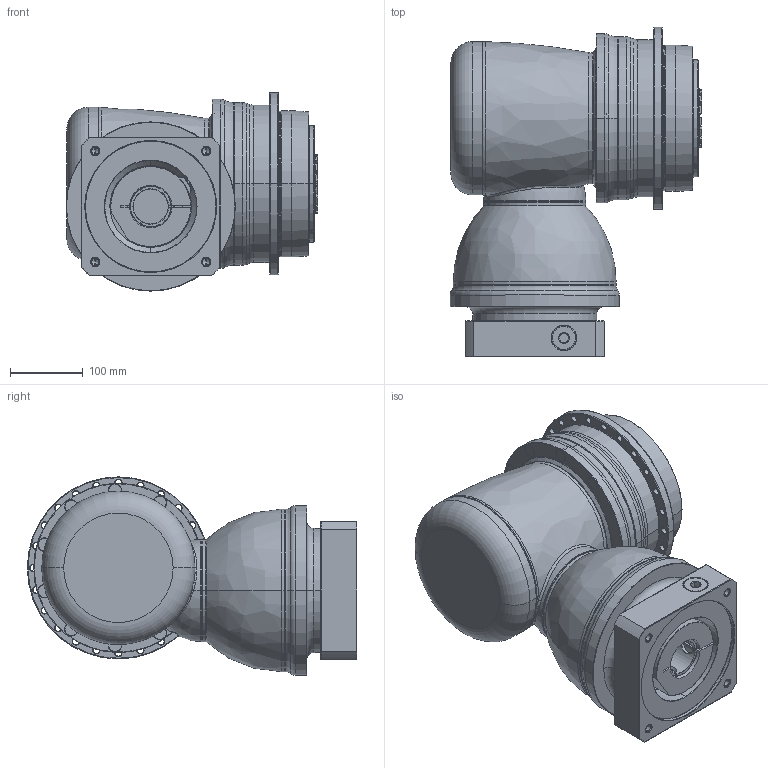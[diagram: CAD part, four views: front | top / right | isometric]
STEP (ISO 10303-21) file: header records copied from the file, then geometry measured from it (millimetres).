
FILE_DESCRIPTION((''),'2;1');
FILE_NAME('APCK200_2ST_48-P0409B10201_ASM','2018-05-09T',('d01226'),(''),'PRO/ENGINEER BY PARAMETRIC TECHNOLOGY CORPORATION, 2008410','PRO/ENGINEER BY PARAMETRIC TECHNOLOGY CORPORATION, 2008410','');
FILE_SCHEMA(('CONFIG_CONTROL_DESIGN'));
Length unit declared in the file: millimetre
Products named in the file (13): P1008600002; P1802610011; P0278601003; P0359660103; P1211600001; P1315600001; P1007601001; P1318610401; P0409B10201; P0503B00016; P0912654001; 21711426021; APCK200_2ST_48-P0409B10201_ASM
Assembly tree (12 placements, depth 2):
  APCK200_2ST_48-P0409B10201_ASM
    P1008600002
    P1802610011
    P0278601003
    P0359660103
    P1211600001
    P1315600001
    P1007601001
    P1318610401
    P0409B10201
    P0503B00016
    P0912654001
    21711426021
Bounding box: 345.1 x 451.25 x 271.75 mm (x, y, z)
Volume: 18664506.8 mm3; surface area: 1229791.4 mm2
Topology: 13 solids, 23 shells, 799 faces, 1877 edges, 1150 vertices
Faces by surface type: cylinder 266, cone 232, plane 152, torus 114, bspline 33, sphere 2
Entity records: 30238 total; most frequent: CARTESIAN_POINT 11280, DIRECTION 4283, ORIENTED_EDGE 3684, AXIS2_PLACEMENT_3D 1875, EDGE_CURVE 1863, VERTEX_POINT 1150, CIRCLE 1074, EDGE_LOOP 923
